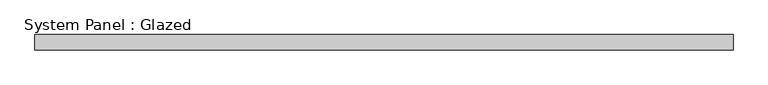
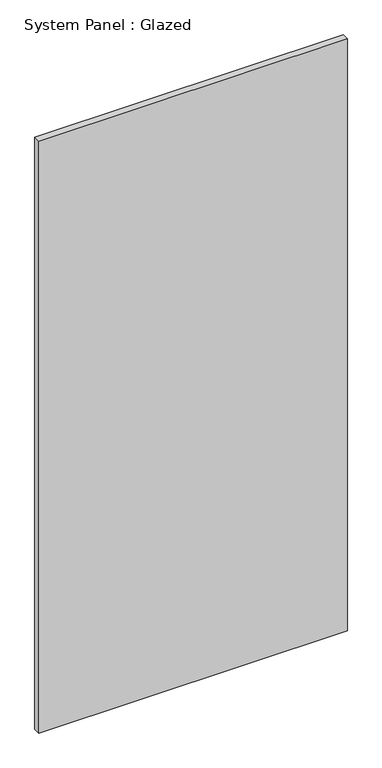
"""IFC4 building model written with IfcOpenShell, lengths in millimetres: plate geometry, System Panel : Glazed."""

from ifc_helpers import new_model, si_unit, origin, origin_with_axes, place, context, project, spatial, polyline, outline, extrude, source, transform, mapped, element, save


def system_panel_glazed_bebaff19(model_context):
    return source(origin(), model_context, "Body", "SweptSolid", [
        extrude(outline(polyline([(577.85, 19.05), (-577.85, 19.05), (-577.85, 44.45), (577.85, 44.45), (577.85, 19.05)])), origin_with_axes(), (0.0, 0.0, 1.0), 2343.15),
    ])


if __name__ == "__main__":
    model = new_model("IFC4")
    model_context = context("Model", 3, world=origin())
    ifc_project = project(units=[si_unit("LENGTHUNIT", "METRE", prefix="MILLI")], contexts=[model_context])
    site = spatial("IfcSite", under=ifc_project)
    building = spatial("IfcBuilding", under=site)
    placement = place(None, origin())
    system_panel_glazed_shape = system_panel_glazed_bebaff19(model_context)
    element("IfcPlate", 1, ObjectType="System Panel : Glazed", at=placement, inside=building, context=model_context, shape_type="MappedRepresentation", body=[
        mapped(system_panel_glazed_shape, transform((0.0, 0.0, 0.0), x_axis=(1.0, 0.0, 0.0), y_axis=(0.0, 1.0, 0.0), z_axis=(0.0, 0.0, 1.0))),
    ])
    save(model, "model.ifc")
